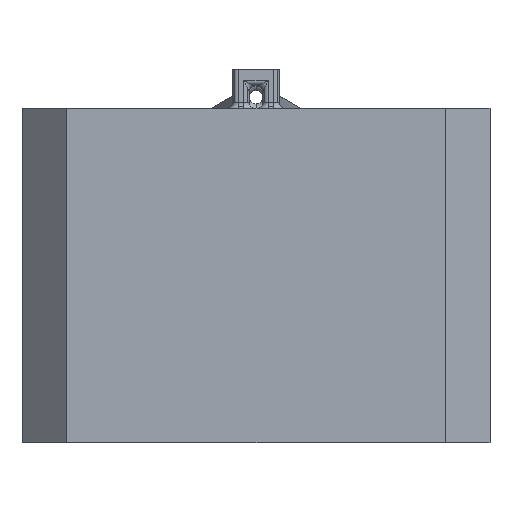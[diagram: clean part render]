
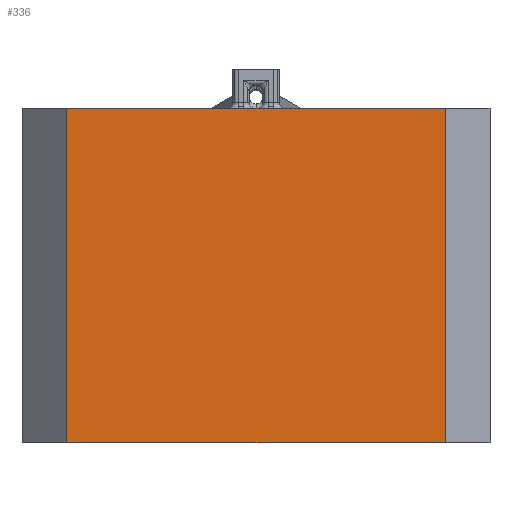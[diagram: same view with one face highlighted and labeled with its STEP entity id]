
A CAD part, left-side view. The second image highlights one B-rep face of the part: STEP entity #336.
In plain terms, the highlighted planar face has unit normal (-1, 0, 0).
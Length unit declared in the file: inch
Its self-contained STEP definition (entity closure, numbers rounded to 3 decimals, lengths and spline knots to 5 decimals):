
#336=ADVANCED_FACE('',(#890),#891,.F.);
#890=FACE_OUTER_BOUND('',#1736,.T.);
#891=PLANE('',#1737);
#1736=EDGE_LOOP('',(#4305,#4306,#4307,#4308));
#1737=AXIS2_PLACEMENT_3D('',#4309,#4310,#4311);
#4305=ORIENTED_EDGE('',*,*,#6560,.F.);
#4306=ORIENTED_EDGE('',*,*,#6561,.F.);
#4307=ORIENTED_EDGE('',*,*,#6562,.F.);
#4308=ORIENTED_EDGE('',*,*,#6563,.F.);
#4309=CARTESIAN_POINT('',(-0.82677,0.0,0.23622));
#4310=DIRECTION('',(1.0,0.0,0.0));
#4311=DIRECTION('',(0.0,0.0,-1.0));
#6560=EDGE_CURVE('',#7566,#7567,#7568,.T.);
#6561=EDGE_CURVE('',#7569,#7566,#7570,.T.);
#6562=EDGE_CURVE('',#7571,#7569,#7572,.T.);
#6563=EDGE_CURVE('',#7567,#7571,#7573,.T.);
#7566=VERTEX_POINT('',#10415);
#7567=VERTEX_POINT('',#10416);
#7568=LINE('',#10417,#10418);
#7569=VERTEX_POINT('',#10419);
#7570=LINE('',#10420,#10421);
#7571=VERTEX_POINT('',#10422);
#7572=LINE('',#10423,#10424);
#7573=LINE('',#10425,#10426);
#10415=CARTESIAN_POINT('',(-0.82677,0.66929,-0.35433));
#10416=CARTESIAN_POINT('',(-0.82677,0.66929,0.82677));
#10417=CARTESIAN_POINT('',(-0.82677,0.66929,0.23622));
#10418=VECTOR('',#26311,1.0);
#10419=CARTESIAN_POINT('',(-0.82677,-0.66929,-0.35433));
#10420=CARTESIAN_POINT('',(-0.82677,0.0,-0.35433));
#10421=VECTOR('',#26312,1.0);
#10422=CARTESIAN_POINT('',(-0.82677,-0.66929,0.82677));
#10423=CARTESIAN_POINT('',(-0.82677,-0.66929,0.23622));
#10424=VECTOR('',#26313,1.0);
#10425=CARTESIAN_POINT('',(-0.82677,0.0,0.82677));
#10426=VECTOR('',#26314,1.0);
#26311=DIRECTION('',(0.0,0.0,1.0));
#26312=DIRECTION('',(0.0,1.0,0.0));
#26313=DIRECTION('',(0.0,0.0,-1.0));
#26314=DIRECTION('',(0.0,-1.0,0.0));
